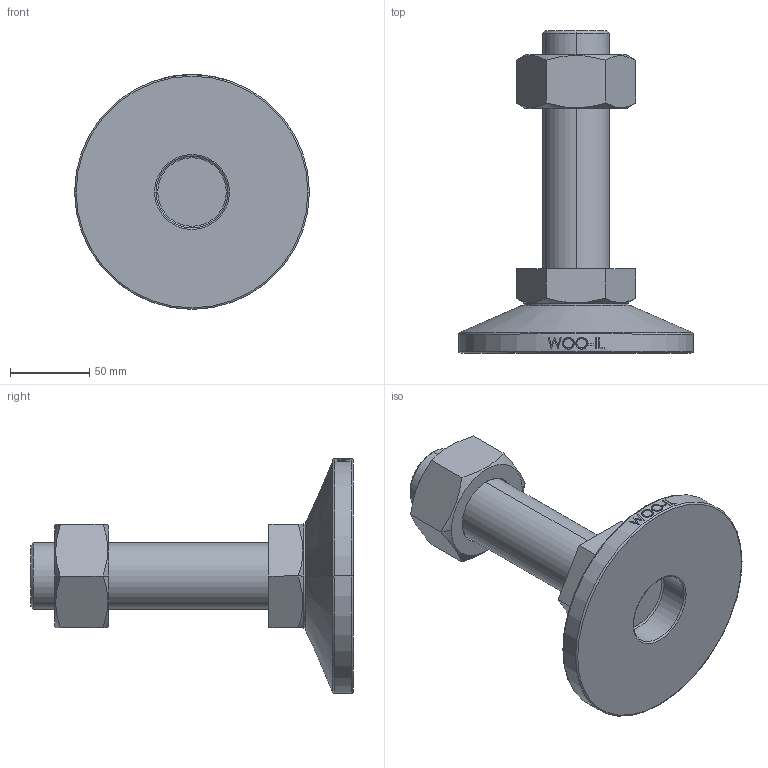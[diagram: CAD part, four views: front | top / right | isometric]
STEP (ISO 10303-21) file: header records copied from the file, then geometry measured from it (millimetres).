
FILE_DESCRIPTION (( 'STEP AP214' ), '1' );
FILE_NAME ('MF148-M42-150.step', '2021-02-03T08:15:49', ( '' ), ( '' ), 'SwSTEP 2.0', 'SolidWorks 2019', '' );
FILE_SCHEMA (( 'AUTOMOTIVE_DESIGN' ));
Length unit declared in the file: millimetre
Products named in the file (2): MF148-M42-150
Bounding box: 148 x 203 x 148 mm (x, y, z)
Volume: 718372.8 mm3; surface area: 91758 mm2
Topology: 3 solids, 3 shells, 106 faces, 243 edges, 154 vertices
Faces by surface type: plane 48, cylinder 18, bspline 16, cone 14, torus 10
Entity records: 4562 total; most frequent: CARTESIAN_POINT 2219, ORIENTED_EDGE 486, DIRECTION 439, EDGE_CURVE 243, AXIS2_PLACEMENT_3D 170, VERTEX_POINT 154, EDGE_LOOP 119, FACE_OUTER_BOUND 106
